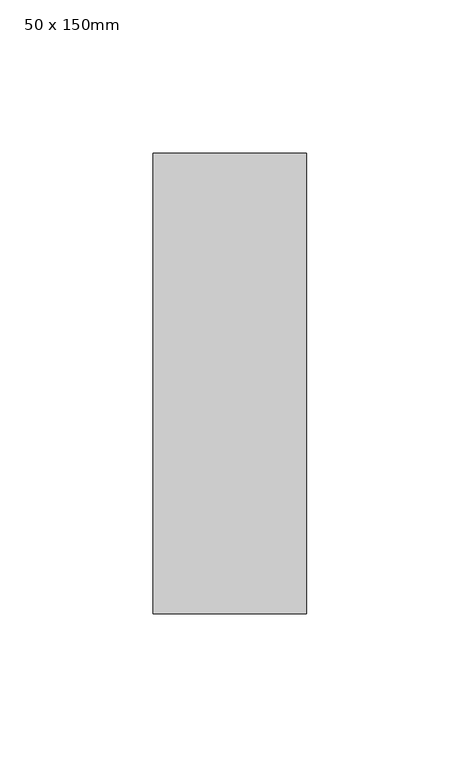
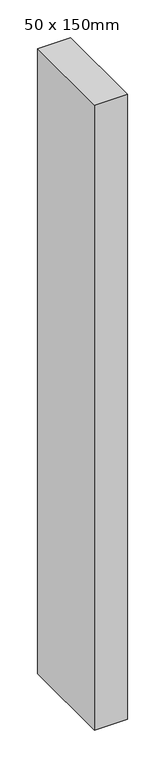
"""IFC4 building model written with IfcOpenShell, lengths in millimetres: member geometry, 矩形豎框 : 50 x 150mm."""

from ifc_helpers import new_model, si_unit, frame, origin, place, context, project, spatial, polyline, outline, extrude, source, transform, mapped, element, save


def member_50_x_150mm_4919059b(model_context):
    return source(origin(), model_context, "Body", "SweptSolid", [
        extrude(outline(polyline([(25.0, 75.0), (25.0, -75.0), (-25.0, -75.0), (-25.0, 75.0), (25.0, 75.0)])), frame((0.0, 0.0, -1006.6666667), z_axis=(0.0, 0.0, 1.0), x_axis=(1.0, 0.0, 0.0)), (0.0, 0.0, 1.0), 1006.6666667),
    ])


if __name__ == "__main__":
    model = new_model("IFC4")
    model_context = context("Model", 3, world=origin())
    ifc_project = project(units=[si_unit("LENGTHUNIT", "METRE", prefix="MILLI")], contexts=[model_context])
    site = spatial("IfcSite", under=ifc_project)
    building = spatial("IfcBuilding", under=site)
    placement = place(None, origin())
    member_50_x_150mm_shape = member_50_x_150mm_4919059b(model_context)
    element("IfcMember", 1, ObjectType="矩形豎框 : 50 x 150mm", at=placement, inside=building, context=model_context, shape_type="MappedRepresentation", body=[
        mapped(member_50_x_150mm_shape, transform((0.0, 0.0, 0.0), x_axis=(1.0, 0.0, 0.0), y_axis=(0.0, 1.0, 0.0), z_axis=(0.0, 0.0, 1.0))),
    ])
    save(model, "model.ifc")
